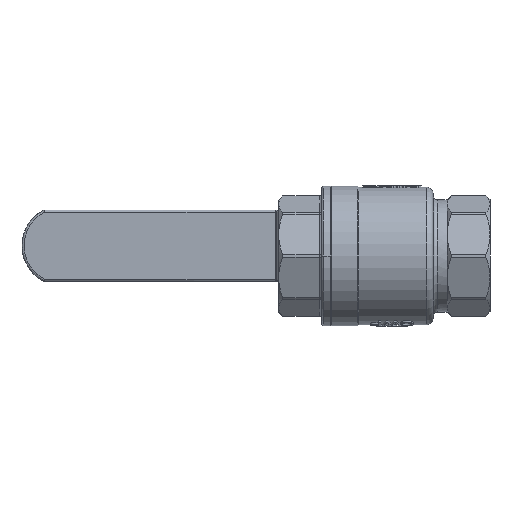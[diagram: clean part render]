
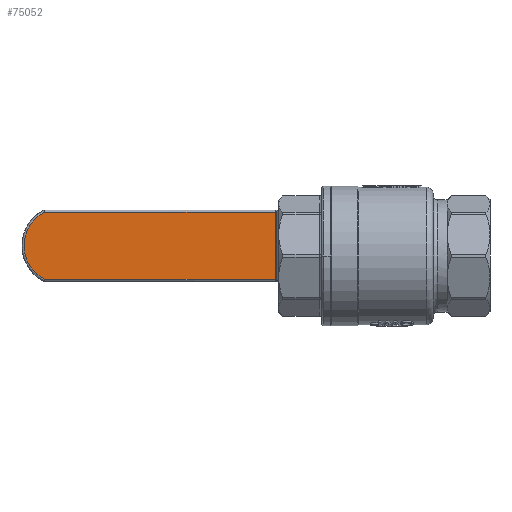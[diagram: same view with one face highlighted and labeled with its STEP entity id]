
A CAD part, front view. The second image highlights one B-rep face of the part: STEP entity #75052.
In plain terms, the highlighted planar face has unit normal (0, -1, 0).
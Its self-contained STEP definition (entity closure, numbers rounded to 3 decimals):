
#368 = VERTEX_POINT ( 'NONE', #19963 ) ;
#2878 = CARTESIAN_POINT ( 'NONE',  ( -124., -5., 16.45 ) ) ;
#5096 = CARTESIAN_POINT ( 'NONE',  ( -123.567, -5., 16.45 ) ) ;
#6128 = EDGE_CURVE ( 'NONE', #32312, #72081, #42145, .T. ) ;
#6552 = VECTOR ( 'NONE', #12462, 1000. ) ;
#9263 = PLANE ( 'NONE',  #36476 ) ;
#10987 = ORIENTED_EDGE ( 'NONE', *, *, #72824, .T. ) ;
#12141 = DIRECTION ( 'NONE',  ( 0., 0., -1. ) ) ;
#12462 = DIRECTION ( 'NONE',  ( -1., 0., 0. ) ) ;
#19963 = CARTESIAN_POINT ( 'NONE',  ( -123.134, -5., -16.45 ) ) ;
#21434 = ORIENTED_EDGE ( 'NONE', *, *, #6128, .T. ) ;
#22654 = CARTESIAN_POINT ( 'NONE',  ( -124., -5., -16.45 ) ) ;
#26107 = LINE ( 'NONE', #48057, #27315 ) ;
#27315 = VECTOR ( 'NONE', #12141, 1000. ) ;
#28541 = EDGE_CURVE ( 'NONE', #368, #70992, #90166, .T. ) ;
#32312 = VERTEX_POINT ( 'NONE', #79921 ) ;
#33844 = CARTESIAN_POINT ( 'NONE',  ( -10.036, -5., -16.45 ) ) ;
#36476 = AXIS2_PLACEMENT_3D ( 'NONE', #2878, #90294, #46798 ) ;
#37536 = AXIS2_PLACEMENT_3D ( 'NONE', #82818, #83777, #54350 ) ;
#39496 = CARTESIAN_POINT ( 'NONE',  ( -123.134, -5., 16.45 ) ) ;
#42145 = LINE ( 'NONE', #5096, #6552 ) ;
#46798 = DIRECTION ( 'NONE',  ( 0., 0., 1. ) ) ;
#47876 = VECTOR ( 'NONE', #88545, 1000. ) ;
#48057 = CARTESIAN_POINT ( 'NONE',  ( -123.134, -5., -17.45 ) ) ;
#50742 = EDGE_LOOP ( 'NONE', ( #71501, #86636, #10987, #21434 ) ) ;
#54350 = DIRECTION ( 'NONE',  ( 0., 0., 1. ) ) ;
#55043 = FACE_OUTER_BOUND ( 'NONE', #50742, .T. ) ;
#58104 = EDGE_CURVE ( 'NONE', #72081, #368, #26107, .T. ) ;
#62120 = CIRCLE ( 'NONE', #37536, 18.5 ) ;
#70992 = VERTEX_POINT ( 'NONE', #33844 ) ;
#71501 = ORIENTED_EDGE ( 'NONE', *, *, #58104, .T. ) ;
#72081 = VERTEX_POINT ( 'NONE', #39496 ) ;
#72824 = EDGE_CURVE ( 'NONE', #70992, #32312, #62120, .T. ) ;
#75052 = ADVANCED_FACE ( 'NONE', ( #55043 ), #9263, .F. ) ;
#79921 = CARTESIAN_POINT ( 'NONE',  ( -10.036, -5., 16.45 ) ) ;
#82818 = CARTESIAN_POINT ( 'NONE',  ( -18.5, -5., 0. ) ) ;
#83777 = DIRECTION ( 'NONE',  ( 0., -1., 0. ) ) ;
#86636 = ORIENTED_EDGE ( 'NONE', *, *, #28541, .T. ) ;
#88545 = DIRECTION ( 'NONE',  ( 1., 0., 0. ) ) ;
#90166 = LINE ( 'NONE', #22654, #47876 ) ;
#90294 = DIRECTION ( 'NONE',  ( 0., 1., 0. ) ) ;
